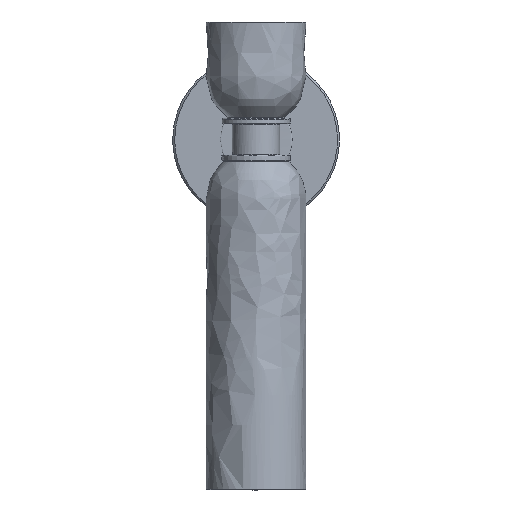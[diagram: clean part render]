
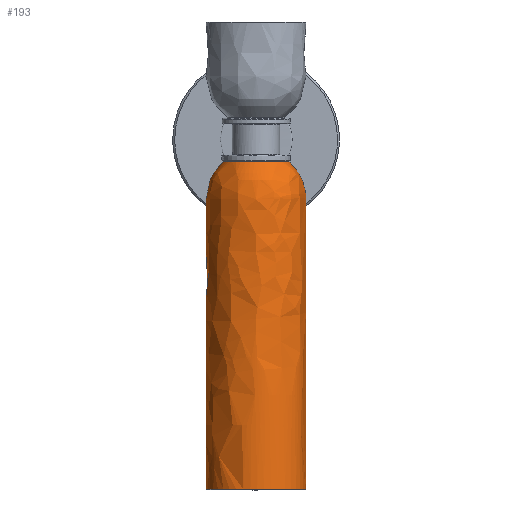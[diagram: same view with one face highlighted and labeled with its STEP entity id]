
A CAD part, front view. The second image highlights one B-rep face of the part: STEP entity #193.
In plain terms, the highlighted free-form (B-spline) face has degree [2, 2] with [9, 5] control points.
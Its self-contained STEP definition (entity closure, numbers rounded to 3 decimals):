
#193=ADVANCED_FACE('',(#306),#1557,.T.);
#306=FACE_OUTER_BOUND('',#431,.T.);
#431=EDGE_LOOP('',(#870,#871,#872,#873));
#870=ORIENTED_EDGE('',*,*,#1100,.F.);
#871=ORIENTED_EDGE('',*,*,#1098,.F.);
#872=ORIENTED_EDGE('',*,*,#1100,.T.);
#873=ORIENTED_EDGE('',*,*,#1107,.F.);
#1098=EDGE_CURVE('',#1469,#1469,#1324,.T.);
#1100=EDGE_CURVE('',#1469,#1471,#1326,.T.);
#1107=EDGE_CURVE('',#1471,#1471,#1331,.T.);
#1324=(
BOUNDED_CURVE()
B_SPLINE_CURVE(2,(#19361,#19362,#19363,#19364,#19365,#19366,#19367,#19368,
#19369),.UNSPECIFIED.,.T.,.F.)
B_SPLINE_CURVE_WITH_KNOTS((3,2,2,2,3),(0.,39.27,78.54,
117.81,157.08),.UNSPECIFIED.)
CURVE()
GEOMETRIC_REPRESENTATION_ITEM()
RATIONAL_B_SPLINE_CURVE((1.,0.707,1.,0.707,1.,0.707,
1.,0.707,1.))
REPRESENTATION_ITEM('')
);
#1326=(
BOUNDED_CURVE()
B_SPLINE_CURVE(2,(#19379,#19380,#19381,#19382,#19383),.UNSPECIFIED.,.F.,
 .F.)
B_SPLINE_CURVE_WITH_KNOTS((3,2,3),(369.567,401.84,564.679),
 .UNSPECIFIED.)
CURVE()
GEOMETRIC_REPRESENTATION_ITEM()
RATIONAL_B_SPLINE_CURVE((1.,0.982,1.163,1.079,
1.))
REPRESENTATION_ITEM('')
);
#1331=(
BOUNDED_CURVE()
B_SPLINE_CURVE(2,(#19422,#19423,#19424,#19425,#19426,#19427,#19428,#19429,
#19430),.UNSPECIFIED.,.T.,.F.)
B_SPLINE_CURVE_WITH_KNOTS((3,2,2,2,3),(0.,58.905,
117.809,176.714,235.618),.UNSPECIFIED.)
CURVE()
GEOMETRIC_REPRESENTATION_ITEM()
RATIONAL_B_SPLINE_CURVE((1.,0.707,1.,0.707,1.,0.707,
1.,0.707,1.))
REPRESENTATION_ITEM('')
);
#1469=VERTEX_POINT('',#19342);
#1471=VERTEX_POINT('',#19344);
#1557=(
BOUNDED_SURFACE()
B_SPLINE_SURFACE(2,2,((#19258,#19259,#19260,#19261,#19262),(#19263,#19264,
#19265,#19266,#19267),(#19268,#19269,#19270,#19271,#19272),(#19273,#19274,
#19275,#19276,#19277),(#19278,#19279,#19280,#19281,#19282),(#19283,#19284,
#19285,#19286,#19287),(#19288,#19289,#19290,#19291,#19292),(#19293,#19294,
#19295,#19296,#19297),(#19298,#19299,#19300,#19301,#19302)),
 .UNSPECIFIED.,.T.,.F.,.F.)
B_SPLINE_SURFACE_WITH_KNOTS((3,2,2,2,3),(3,2,3),(0.,59.69,119.381,
179.071,238.761),(365.93,401.84,620.857),
 .UNSPECIFIED.)
GEOMETRIC_REPRESENTATION_ITEM()
RATIONAL_B_SPLINE_SURFACE(((1.,0.958,1.163,1.163,
1.163),(0.707,0.678,0.823,
0.823,0.823),(1.,0.958,1.163,
1.163,1.163),(0.707,0.678,
0.823,0.823,0.823),(1.,0.958,
1.163,1.163,1.163),(0.707,
0.678,0.823,0.823,0.823),
(1.,0.958,1.163,1.163,1.163),
(0.707,0.678,0.823,0.823,
0.823),(1.,0.958,1.163,1.163,
1.163)))
REPRESENTATION_ITEM('')
SURFACE()
);
#19258=CARTESIAN_POINT('',(22.,-84.5,-14.634));
#19259=CARTESIAN_POINT('',(38.,-84.5,-25.995));
#19260=CARTESIAN_POINT('',(38.,-84.5,-45.618));
#19261=CARTESIAN_POINT('',(38.,-84.5,-155.126));
#19262=CARTESIAN_POINT('',(38.,-84.5,-369.634));
#19263=CARTESIAN_POINT('',(22.,-106.5,-14.634));
#19264=CARTESIAN_POINT('',(38.,-122.5,-25.995));
#19265=CARTESIAN_POINT('',(38.,-122.5,-45.618));
#19266=CARTESIAN_POINT('',(38.,-122.5,-155.126));
#19267=CARTESIAN_POINT('',(38.,-122.5,-369.634));
#19268=CARTESIAN_POINT('',(0.,-106.5,-14.634));
#19269=CARTESIAN_POINT('',(0.,-122.5,-25.995));
#19270=CARTESIAN_POINT('',(0.,-122.5,-45.618));
#19271=CARTESIAN_POINT('',(0.,-122.5,-155.126));
#19272=CARTESIAN_POINT('',(0.,-122.5,-369.634));
#19273=CARTESIAN_POINT('',(-22.,-106.5,-14.634));
#19274=CARTESIAN_POINT('',(-38.,-122.5,-25.995));
#19275=CARTESIAN_POINT('',(-38.,-122.5,-45.618));
#19276=CARTESIAN_POINT('',(-38.,-122.5,-155.126));
#19277=CARTESIAN_POINT('',(-38.,-122.5,-369.634));
#19278=CARTESIAN_POINT('',(-22.,-84.5,-14.634));
#19279=CARTESIAN_POINT('',(-38.,-84.5,-25.995));
#19280=CARTESIAN_POINT('',(-38.,-84.5,-45.618));
#19281=CARTESIAN_POINT('',(-38.,-84.5,-155.126));
#19282=CARTESIAN_POINT('',(-38.,-84.5,-369.634));
#19283=CARTESIAN_POINT('',(-22.,-62.5,-14.634));
#19284=CARTESIAN_POINT('',(-38.,-46.5,-25.995));
#19285=CARTESIAN_POINT('',(-38.,-46.5,-45.618));
#19286=CARTESIAN_POINT('',(-38.,-46.5,-155.126));
#19287=CARTESIAN_POINT('',(-38.,-46.5,-369.634));
#19288=CARTESIAN_POINT('',(0.,-62.5,-14.634));
#19289=CARTESIAN_POINT('',(0.,-46.5,-25.995));
#19290=CARTESIAN_POINT('',(0.,-46.5,-45.618));
#19291=CARTESIAN_POINT('',(0.,-46.5,-155.126));
#19292=CARTESIAN_POINT('',(0.,-46.5,-369.634));
#19293=CARTESIAN_POINT('',(22.,-62.5,-14.634));
#19294=CARTESIAN_POINT('',(38.,-46.5,-25.995));
#19295=CARTESIAN_POINT('',(38.,-46.5,-45.618));
#19296=CARTESIAN_POINT('',(38.,-46.5,-155.126));
#19297=CARTESIAN_POINT('',(38.,-46.5,-369.634));
#19298=CARTESIAN_POINT('',(22.,-84.5,-14.634));
#19299=CARTESIAN_POINT('',(38.,-84.5,-25.995));
#19300=CARTESIAN_POINT('',(38.,-84.5,-45.618));
#19301=CARTESIAN_POINT('',(38.,-84.5,-155.126));
#19302=CARTESIAN_POINT('',(38.,-84.5,-369.634));
#19342=CARTESIAN_POINT('',(25.,-84.5,-17.));
#19344=CARTESIAN_POINT('',(38.,-84.5,-266.5));
#19361=CARTESIAN_POINT('',(25.,-84.5,-17.));
#19362=CARTESIAN_POINT('',(25.,-59.5,-17.));
#19363=CARTESIAN_POINT('',(0.,-59.5,-17.));
#19364=CARTESIAN_POINT('',(-25.,-59.5,-17.));
#19365=CARTESIAN_POINT('',(-25.,-84.5,-17.));
#19366=CARTESIAN_POINT('',(-25.,-109.5,-17.));
#19367=CARTESIAN_POINT('',(0.,-109.5,-17.));
#19368=CARTESIAN_POINT('',(25.,-109.5,-17.));
#19369=CARTESIAN_POINT('',(25.,-84.5,-17.));
#19379=CARTESIAN_POINT('',(25.,-84.5,-17.));
#19380=CARTESIAN_POINT('',(38.,-84.5,-28.356));
#19381=CARTESIAN_POINT('',(38.,-84.5,-45.618));
#19382=CARTESIAN_POINT('',(38.,-84.5,-127.037));
#19383=CARTESIAN_POINT('',(38.,-84.5,-266.5));
#19422=CARTESIAN_POINT('',(38.,-84.5,-266.5));
#19423=CARTESIAN_POINT('',(38.,-122.5,-266.5));
#19424=CARTESIAN_POINT('',(0.,-122.5,-266.5));
#19425=CARTESIAN_POINT('',(-38.,-122.5,-266.5));
#19426=CARTESIAN_POINT('',(-38.,-84.5,-266.5));
#19427=CARTESIAN_POINT('',(-38.,-46.5,-266.5));
#19428=CARTESIAN_POINT('',(0.,-46.5,-266.5));
#19429=CARTESIAN_POINT('',(38.,-46.5,-266.5));
#19430=CARTESIAN_POINT('',(38.,-84.5,-266.5));
